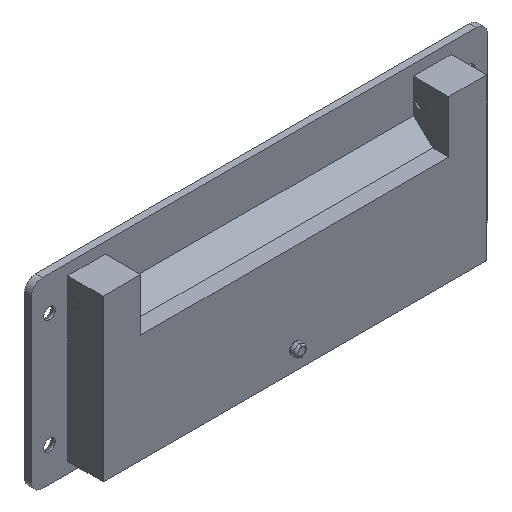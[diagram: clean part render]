
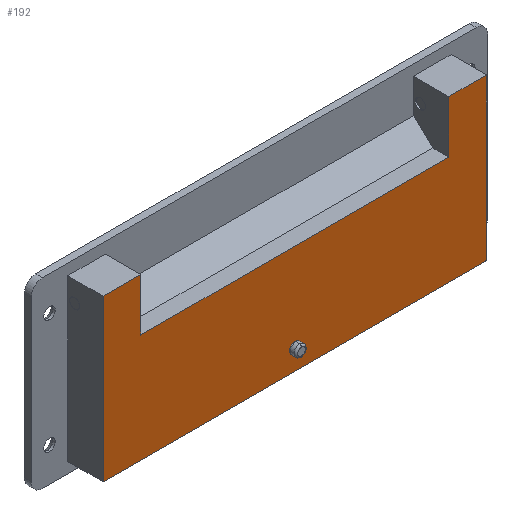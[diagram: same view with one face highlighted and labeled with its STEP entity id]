
A CAD part, isometric view. The second image highlights one B-rep face of the part: STEP entity #192.
In plain terms, the highlighted planar face has unit normal (0, -1, 0).
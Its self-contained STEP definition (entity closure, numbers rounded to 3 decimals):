
#38 = CARTESIAN_POINT ( 'NONE',  ( -67.5, -15.5, 12.25 ) ) ;
#175 = CARTESIAN_POINT ( 'NONE',  ( 0., -15.5, -24. ) ) ;
#192 = ADVANCED_FACE ( 'NONE', ( #4145, #1505 ), #1906, .T. ) ;
#250 = DIRECTION ( 'NONE',  ( 0., 0., -1. ) ) ;
#263 = VERTEX_POINT ( 'NONE', #3375 ) ;
#294 = DIRECTION ( 'NONE',  ( 1., 0., 0. ) ) ;
#298 = VERTEX_POINT ( 'NONE', #3082 ) ;
#299 = CARTESIAN_POINT ( 'NONE',  ( 0., -15.5, -26.25 ) ) ;
#330 = CARTESIAN_POINT ( 'NONE',  ( -84., -15.5, -35.25 ) ) ;
#347 = DIRECTION ( 'NONE',  ( 0., -1., 0. ) ) ;
#439 = EDGE_CURVE ( 'NONE', #2357, #986, #2280, .T. ) ;
#478 = AXIS2_PLACEMENT_3D ( 'NONE', #299, #347, #2094 ) ;
#602 = CIRCLE ( 'NONE', #3630, 2.25 ) ;
#672 = CARTESIAN_POINT ( 'NONE',  ( 0., -15.5, -28.5 ) ) ;
#682 = AXIS2_PLACEMENT_3D ( 'NONE', #837, #2947, #2661 ) ;
#719 = DIRECTION ( 'NONE',  ( -1., 0., 0. ) ) ;
#837 = CARTESIAN_POINT ( 'NONE',  ( 0., -15.5, 0. ) ) ;
#884 = LINE ( 'NONE', #3787, #2713 ) ;
#914 = VERTEX_POINT ( 'NONE', #3246 ) ;
#973 = EDGE_CURVE ( 'NONE', #914, #298, #4299, .T. ) ;
#979 = EDGE_CURVE ( 'NONE', #2295, #263, #3899, .T. ) ;
#986 = VERTEX_POINT ( 'NONE', #672 ) ;
#1073 = ORIENTED_EDGE ( 'NONE', *, *, #4284, .F. ) ;
#1191 = VERTEX_POINT ( 'NONE', #330 ) ;
#1228 = CARTESIAN_POINT ( 'NONE',  ( -84., -15.5, -35.25 ) ) ;
#1355 = DIRECTION ( 'NONE',  ( 0., 0., 1. ) ) ;
#1402 = LINE ( 'NONE', #1736, #4448 ) ;
#1505 = FACE_OUTER_BOUND ( 'NONE', #4186, .T. ) ;
#1558 = ORIENTED_EDGE ( 'NONE', *, *, #2205, .T. ) ;
#1589 = LINE ( 'NONE', #1228, #4662 ) ;
#1625 = ORIENTED_EDGE ( 'NONE', *, *, #2066, .T. ) ;
#1736 = CARTESIAN_POINT ( 'NONE',  ( 84., -15.5, 35.25 ) ) ;
#1813 = DIRECTION ( 'NONE',  ( 0., -1., 0. ) ) ;
#1823 = VERTEX_POINT ( 'NONE', #4070 ) ;
#1885 = VECTOR ( 'NONE', #250, 1000. ) ;
#1906 = PLANE ( 'NONE',  #682 ) ;
#1947 = EDGE_CURVE ( 'NONE', #2938, #1191, #884, .T. ) ;
#2051 = ORIENTED_EDGE ( 'NONE', *, *, #3591, .T. ) ;
#2066 = EDGE_CURVE ( 'NONE', #1191, #1823, #1589, .T. ) ;
#2094 = DIRECTION ( 'NONE',  ( 0., 0., -1. ) ) ;
#2151 = CARTESIAN_POINT ( 'NONE',  ( -84., -15.5, 35.25 ) ) ;
#2194 = EDGE_CURVE ( 'NONE', #2398, #2938, #3331, .T. ) ;
#2205 = EDGE_CURVE ( 'NONE', #298, #263, #4335, .T. ) ;
#2210 = CARTESIAN_POINT ( 'NONE',  ( -84., -15.5, 35.25 ) ) ;
#2235 = DIRECTION ( 'NONE',  ( 0., 0., -1. ) ) ;
#2280 = CIRCLE ( 'NONE', #478, 2.25 ) ;
#2295 = VERTEX_POINT ( 'NONE', #38 ) ;
#2357 = VERTEX_POINT ( 'NONE', #175 ) ;
#2398 = VERTEX_POINT ( 'NONE', #3792 ) ;
#2519 = DIRECTION ( 'NONE',  ( 0., 0., -1. ) ) ;
#2535 = CARTESIAN_POINT ( 'NONE',  ( -84., -15.5, 35.25 ) ) ;
#2630 = ORIENTED_EDGE ( 'NONE', *, *, #979, .F. ) ;
#2661 = DIRECTION ( 'NONE',  ( 0., 0., -1. ) ) ;
#2713 = VECTOR ( 'NONE', #3418, 1000. ) ;
#2821 = VECTOR ( 'NONE', #2235, 1000. ) ;
#2832 = CARTESIAN_POINT ( 'NONE',  ( -67.5, -15.5, 12.25 ) ) ;
#2938 = VERTEX_POINT ( 'NONE', #2151 ) ;
#2947 = DIRECTION ( 'NONE',  ( 0., -1., 0. ) ) ;
#2970 = VECTOR ( 'NONE', #719, 1000. ) ;
#3057 = ORIENTED_EDGE ( 'NONE', *, *, #4142, .F. ) ;
#3082 = CARTESIAN_POINT ( 'NONE',  ( 67.5, -15.5, 35.25 ) ) ;
#3225 = CARTESIAN_POINT ( 'NONE',  ( -67.5, -15.5, 12.25 ) ) ;
#3246 = CARTESIAN_POINT ( 'NONE',  ( 84., -15.5, 35.25 ) ) ;
#3285 = CARTESIAN_POINT ( 'NONE',  ( 67.5, -15.5, 12.25 ) ) ;
#3331 = LINE ( 'NONE', #2210, #3510 ) ;
#3375 = CARTESIAN_POINT ( 'NONE',  ( 67.5, -15.5, 12.25 ) ) ;
#3418 = DIRECTION ( 'NONE',  ( 0., 0., -1. ) ) ;
#3432 = DIRECTION ( 'NONE',  ( 1., 0., 0. ) ) ;
#3510 = VECTOR ( 'NONE', #3669, 1000. ) ;
#3591 = EDGE_CURVE ( 'NONE', #1823, #914, #1402, .T. ) ;
#3630 = AXIS2_PLACEMENT_3D ( 'NONE', #3931, #1813, #2519 ) ;
#3669 = DIRECTION ( 'NONE',  ( -1., 0., 0. ) ) ;
#3732 = ORIENTED_EDGE ( 'NONE', *, *, #2194, .T. ) ;
#3787 = CARTESIAN_POINT ( 'NONE',  ( -84., -15.5, 35.25 ) ) ;
#3792 = CARTESIAN_POINT ( 'NONE',  ( -67.5, -15.5, 35.25 ) ) ;
#3872 = ORIENTED_EDGE ( 'NONE', *, *, #1947, .T. ) ;
#3899 = LINE ( 'NONE', #3225, #4420 ) ;
#3931 = CARTESIAN_POINT ( 'NONE',  ( 0., -15.5, -26.25 ) ) ;
#3971 = ORIENTED_EDGE ( 'NONE', *, *, #439, .F. ) ;
#4070 = CARTESIAN_POINT ( 'NONE',  ( 84., -15.5, -35.25 ) ) ;
#4142 = EDGE_CURVE ( 'NONE', #2398, #2295, #4659, .T. ) ;
#4145 = FACE_BOUND ( 'NONE', #4630, .T. ) ;
#4186 = EDGE_LOOP ( 'NONE', ( #3057, #3732, #3872, #1625, #2051, #4680, #1558, #2630 ) ) ;
#4284 = EDGE_CURVE ( 'NONE', #986, #2357, #602, .T. ) ;
#4299 = LINE ( 'NONE', #2535, #2970 ) ;
#4335 = LINE ( 'NONE', #3285, #2821 ) ;
#4420 = VECTOR ( 'NONE', #294, 1000. ) ;
#4448 = VECTOR ( 'NONE', #1355, 1000. ) ;
#4630 = EDGE_LOOP ( 'NONE', ( #3971, #1073 ) ) ;
#4659 = LINE ( 'NONE', #2832, #1885 ) ;
#4662 = VECTOR ( 'NONE', #3432, 1000. ) ;
#4680 = ORIENTED_EDGE ( 'NONE', *, *, #973, .T. ) ;
